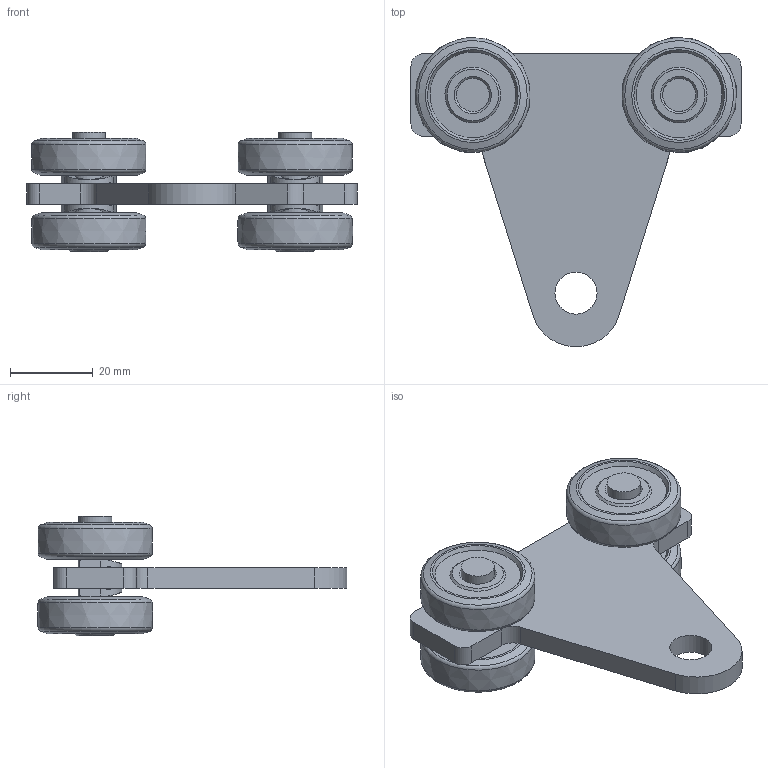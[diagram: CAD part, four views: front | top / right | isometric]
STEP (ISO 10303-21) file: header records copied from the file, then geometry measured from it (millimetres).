
FILE_DESCRIPTION(/* description */ ('Brennteil'),/* implementation_level */ '2;1');
FILE_NAME(/* name */ 'Q:\sge-ma\Produktmanagement-STB\STB\Workspace\stp\010336834.stp',/* time_stamp */ '2016-07-14T10:58:59+02:00',/* author */ ('avschreier'),/* organization */ (''),/* preprocessor_version */ 'ST-DEVELOPER v16.1',/* originating_system */ 'Autodesk Inventor 2016',/* authorisation */ '');
FILE_SCHEMA (('AUTOMOTIVE_DESIGN { 1 0 10303 214 3 1 1 }'));
Length unit declared in the file: millimetre
Products named in the file (5): 000302049; 000303235; 336290010; 000304011; 010336834
Assembly tree (11 placements, depth 2):
  010336834
    000302049
    000303235  x4
    336290010  x4
    000304011  x2
Bounding box: 80 x 74.96 x 29 mm (x, y, z)
Volume: 35507.9 mm3; surface area: 18565 mm2
Topology: 11 solids, 11 shells, 263 faces, 626 edges, 403 vertices
Faces by surface type: plane 155, cylinder 36, cone 34, bspline 28, torus 10
Full cylindrical faces by diameter (mm): 8 x6, 10 x2, 10.2 x1
Entity records: 3409 total; most frequent: CARTESIAN_POINT 1223, DIRECTION 452, ORIENTED_EDGE 394, EDGE_CURVE 197, AXIS2_PLACEMENT_3D 171, VERTEX_POINT 138, EDGE_LOOP 117, LINE 110
